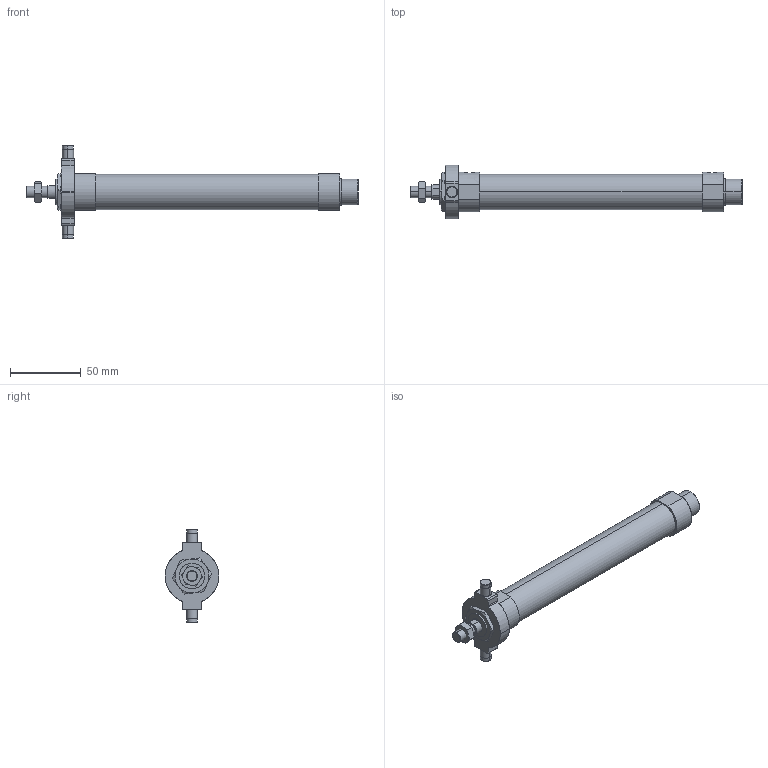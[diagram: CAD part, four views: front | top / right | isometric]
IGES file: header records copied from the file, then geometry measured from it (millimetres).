
Start section: SolidWorks IGES file using analytic representation for surfaces
Global section: file name: C:\Users\Toshiba\Desktop\J#2-20-125-T.IGS; native system: SolidWorks 2014; preprocessor: SolidWorks 2014; author: Toshiba; date: 160308.150457; units: millimetre
Bounding box: 234 x 38 x 66 mm (x, y, z)
Surface area: 24814.2 mm2 (no closed solid volume)
Topology: 0 solids, 0 shells, 131 faces, 2124 edges, 2124 vertices
Faces by surface type: bspline 70, revolution 61
